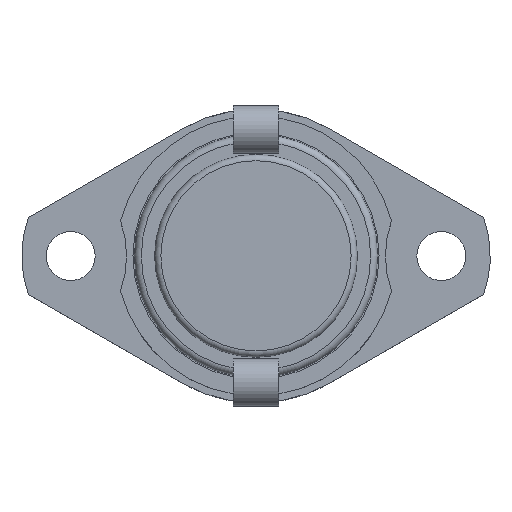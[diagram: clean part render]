
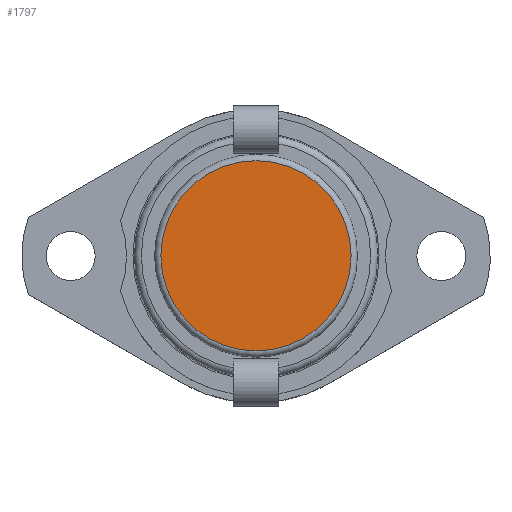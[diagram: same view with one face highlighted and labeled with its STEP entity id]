
A CAD part, top view. The second image highlights one B-rep face of the part: STEP entity #1797.
In plain terms, the highlighted planar face has unit normal (0, 0, 1).
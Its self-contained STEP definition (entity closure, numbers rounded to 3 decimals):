
#414=PLANE('',#2073);
#501=FACE_OUTER_BOUND('',#615,.T.);
#615=EDGE_LOOP('',(#1601,#1602));
#728=CIRCLE('',#2074,13.6);
#729=CIRCLE('',#2075,13.6);
#900=VERTEX_POINT('',#3276);
#901=VERTEX_POINT('',#3277);
#1143=EDGE_CURVE('',#900,#901,#728,.T.);
#1144=EDGE_CURVE('',#901,#900,#729,.T.);
#1601=ORIENTED_EDGE('',*,*,#1143,.F.);
#1602=ORIENTED_EDGE('',*,*,#1144,.F.);
#1797=ADVANCED_FACE('',(#501),#414,.T.);
#2073=AXIS2_PLACEMENT_3D('',#3275,#2573,#2574);
#2074=AXIS2_PLACEMENT_3D('',#3278,#2575,#2576);
#2075=AXIS2_PLACEMENT_3D('',#3279,#2577,#2578);
#2573=DIRECTION('center_axis',(0.,0.,1.));
#2574=DIRECTION('ref_axis',(1.,0.,0.));
#2575=DIRECTION('center_axis',(0.,0.,-1.));
#2576=DIRECTION('ref_axis',(0.,1.,0.));
#2577=DIRECTION('center_axis',(0.,0.,-1.));
#2578=DIRECTION('ref_axis',(0.,1.,0.));
#3275=CARTESIAN_POINT('Origin',(0.,6.8,12.3));
#3276=CARTESIAN_POINT('',(0.,13.6,12.3));
#3277=CARTESIAN_POINT('',(13.6,0.,12.3));
#3278=CARTESIAN_POINT('Origin',(0.,0.,12.3));
#3279=CARTESIAN_POINT('Origin',(0.,0.,12.3));
